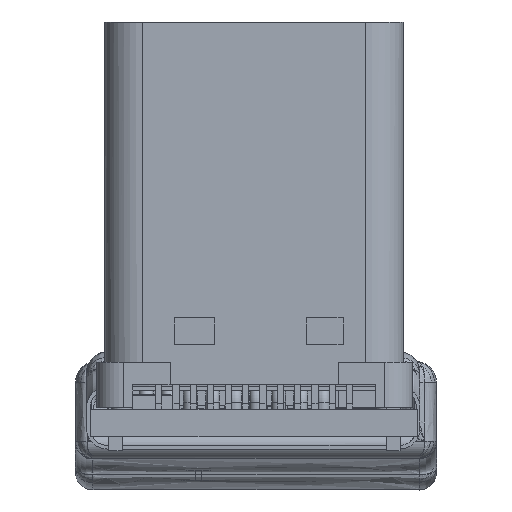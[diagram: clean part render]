
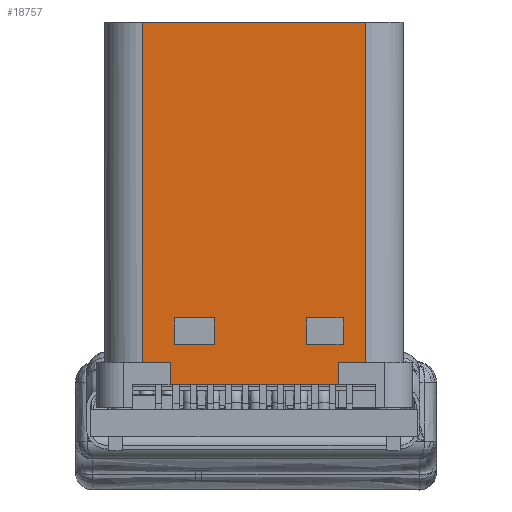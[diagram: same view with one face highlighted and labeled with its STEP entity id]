
A CAD part, front view. The second image highlights one B-rep face of the part: STEP entity #18757.
In plain terms, the highlighted planar face has unit normal (0, -1, 0) as drawn and (0, 0, 1) by its records, which use the part's own axes.
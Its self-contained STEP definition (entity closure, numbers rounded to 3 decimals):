
#17090 = VERTEX_POINT('',#17091);
#17091 = CARTESIAN_POINT('',(-2.13,0.65,-0.25));
#17097 = EDGE_CURVE('',#17098,#17090,#17100,.T.);
#17098 = VERTEX_POINT('',#17099);
#17099 = CARTESIAN_POINT('',(-6.98,0.65,-0.25));
#17100 = LINE('',#17101,#17102);
#17101 = CARTESIAN_POINT('',(-7.76,0.65,-0.25));
#17102 = VECTOR('',#17103,1.);
#17103 = DIRECTION('',(1.,0.,0.));
#18051 = VERTEX_POINT('',#18052);
#18052 = CARTESIAN_POINT('',(-1.35,1.3,-0.25));
#18059 = EDGE_CURVE('',#18060,#18051,#18062,.T.);
#18060 = VERTEX_POINT('',#18061);
#18061 = CARTESIAN_POINT('',(-2.13,1.3,-0.25));
#18062 = LINE('',#18063,#18064);
#18063 = CARTESIAN_POINT('',(-0.25,1.3,-0.25));
#18064 = VECTOR('',#18065,1.);
#18065 = DIRECTION('',(1.,-0.,-0.));
#18382 = VERTEX_POINT('',#18383);
#18383 = CARTESIAN_POINT('',(-7.76,1.3,-0.25));
#18424 = VERTEX_POINT('',#18425);
#18425 = CARTESIAN_POINT('',(-6.98,1.3,-0.25));
#18431 = EDGE_CURVE('',#18382,#18424,#18432,.T.);
#18432 = LINE('',#18433,#18434);
#18433 = CARTESIAN_POINT('',(-0.25,1.3,-0.25));
#18434 = VECTOR('',#18435,1.);
#18435 = DIRECTION('',(1.,-0.,-0.));
#18623 = VERTEX_POINT('',#18624);
#18624 = CARTESIAN_POINT('',(-7.76,11.1,-0.25));
#18631 = EDGE_CURVE('',#18623,#18632,#18634,.T.);
#18632 = VERTEX_POINT('',#18633);
#18633 = CARTESIAN_POINT('',(-1.35,11.1,-0.25));
#18634 = LINE('',#18635,#18636);
#18635 = CARTESIAN_POINT('',(-0.25,11.1,-0.25));
#18636 = VECTOR('',#18637,1.);
#18637 = DIRECTION('',(1.,-0.,-0.));
#18757 = ADVANCED_FACE('',(#18758,#18792,#18826),#18856,.F.);
#18758 = FACE_BOUND('',#18759,.T.);
#18759 = EDGE_LOOP('',(#18760,#18770,#18778,#18786));
#18760 = ORIENTED_EDGE('',*,*,#18761,.F.);
#18761 = EDGE_CURVE('',#18762,#18764,#18766,.T.);
#18762 = VERTEX_POINT('',#18763);
#18763 = CARTESIAN_POINT('',(-6.863,1.805,-0.25));
#18764 = VERTEX_POINT('',#18765);
#18765 = CARTESIAN_POINT('',(-5.709,1.805,-0.25));
#18766 = LINE('',#18767,#18768);
#18767 = CARTESIAN_POINT('',(-6.863,1.805,-0.25));
#18768 = VECTOR('',#18769,1.);
#18769 = DIRECTION('',(1.,0.,0.));
#18770 = ORIENTED_EDGE('',*,*,#18771,.F.);
#18771 = EDGE_CURVE('',#18772,#18762,#18774,.T.);
#18772 = VERTEX_POINT('',#18773);
#18773 = CARTESIAN_POINT('',(-6.863,2.582,-0.25));
#18774 = LINE('',#18775,#18776);
#18775 = CARTESIAN_POINT('',(-6.863,1.805,-0.25));
#18776 = VECTOR('',#18777,1.);
#18777 = DIRECTION('',(-0.,-1.,-0.));
#18778 = ORIENTED_EDGE('',*,*,#18779,.F.);
#18779 = EDGE_CURVE('',#18780,#18772,#18782,.T.);
#18780 = VERTEX_POINT('',#18781);
#18781 = CARTESIAN_POINT('',(-5.709,2.582,-0.25));
#18782 = LINE('',#18783,#18784);
#18783 = CARTESIAN_POINT('',(-6.863,2.582,-0.25));
#18784 = VECTOR('',#18785,1.);
#18785 = DIRECTION('',(-1.,-0.,-0.));
#18786 = ORIENTED_EDGE('',*,*,#18787,.F.);
#18787 = EDGE_CURVE('',#18764,#18780,#18788,.T.);
#18788 = LINE('',#18789,#18790);
#18789 = CARTESIAN_POINT('',(-5.709,1.805,-0.25));
#18790 = VECTOR('',#18791,1.);
#18791 = DIRECTION('',(0.,1.,0.));
#18792 = FACE_BOUND('',#18793,.T.);
#18793 = EDGE_LOOP('',(#18794,#18804,#18812,#18820));
#18794 = ORIENTED_EDGE('',*,*,#18795,.F.);
#18795 = EDGE_CURVE('',#18796,#18798,#18800,.T.);
#18796 = VERTEX_POINT('',#18797);
#18797 = CARTESIAN_POINT('',(-1.995,2.582,-0.25));
#18798 = VERTEX_POINT('',#18799);
#18799 = CARTESIAN_POINT('',(-3.053,2.582,-0.25));
#18800 = LINE('',#18801,#18802);
#18801 = CARTESIAN_POINT('',(-1.995,2.582,-0.25));
#18802 = VECTOR('',#18803,1.);
#18803 = DIRECTION('',(-1.,0.,0.));
#18804 = ORIENTED_EDGE('',*,*,#18805,.F.);
#18805 = EDGE_CURVE('',#18806,#18796,#18808,.T.);
#18806 = VERTEX_POINT('',#18807);
#18807 = CARTESIAN_POINT('',(-1.995,1.805,-0.25));
#18808 = LINE('',#18809,#18810);
#18809 = CARTESIAN_POINT('',(-1.995,1.805,-0.25));
#18810 = VECTOR('',#18811,1.);
#18811 = DIRECTION('',(0.,1.,0.));
#18812 = ORIENTED_EDGE('',*,*,#18813,.F.);
#18813 = EDGE_CURVE('',#18814,#18806,#18816,.T.);
#18814 = VERTEX_POINT('',#18815);
#18815 = CARTESIAN_POINT('',(-3.053,1.805,-0.25));
#18816 = LINE('',#18817,#18818);
#18817 = CARTESIAN_POINT('',(-1.995,1.805,-0.25));
#18818 = VECTOR('',#18819,1.);
#18819 = DIRECTION('',(1.,-0.,-0.));
#18820 = ORIENTED_EDGE('',*,*,#18821,.F.);
#18821 = EDGE_CURVE('',#18798,#18814,#18822,.T.);
#18822 = LINE('',#18823,#18824);
#18823 = CARTESIAN_POINT('',(-3.053,1.805,-0.25));
#18824 = VECTOR('',#18825,1.);
#18825 = DIRECTION('',(-0.,-1.,-0.));
#18826 = FACE_BOUND('',#18827,.T.);
#18827 = EDGE_LOOP('',(#18828,#18829,#18835,#18836,#18842,#18843,#18849,
    #18850));
#18828 = ORIENTED_EDGE('',*,*,#18431,.T.);
#18829 = ORIENTED_EDGE('',*,*,#18830,.F.);
#18830 = EDGE_CURVE('',#17098,#18424,#18831,.T.);
#18831 = LINE('',#18832,#18833);
#18832 = CARTESIAN_POINT('',(-6.98,0.65,-0.25));
#18833 = VECTOR('',#18834,1.);
#18834 = DIRECTION('',(0.,1.,0.));
#18835 = ORIENTED_EDGE('',*,*,#17097,.T.);
#18836 = ORIENTED_EDGE('',*,*,#18837,.F.);
#18837 = EDGE_CURVE('',#18060,#17090,#18838,.T.);
#18838 = LINE('',#18839,#18840);
#18839 = CARTESIAN_POINT('',(-2.13,0.65,-0.25));
#18840 = VECTOR('',#18841,1.);
#18841 = DIRECTION('',(0.,-1.,0.));
#18842 = ORIENTED_EDGE('',*,*,#18059,.T.);
#18843 = ORIENTED_EDGE('',*,*,#18844,.T.);
#18844 = EDGE_CURVE('',#18051,#18632,#18845,.T.);
#18845 = LINE('',#18846,#18847);
#18846 = CARTESIAN_POINT('',(-1.35,11.1,-0.25));
#18847 = VECTOR('',#18848,1.);
#18848 = DIRECTION('',(-0.,1.,-0.));
#18849 = ORIENTED_EDGE('',*,*,#18631,.F.);
#18850 = ORIENTED_EDGE('',*,*,#18851,.T.);
#18851 = EDGE_CURVE('',#18623,#18382,#18852,.T.);
#18852 = LINE('',#18853,#18854);
#18853 = CARTESIAN_POINT('',(-7.76,11.1,-0.25));
#18854 = VECTOR('',#18855,1.);
#18855 = DIRECTION('',(0.,-1.,0.));
#18856 = PLANE('',#18857);
#18857 = AXIS2_PLACEMENT_3D('',#18858,#18859,#18860);
#18858 = CARTESIAN_POINT('',(-0.25,11.1,-0.25));
#18859 = DIRECTION('',(0.,0.,-1.));
#18860 = DIRECTION('',(-1.,0.,-0.));
